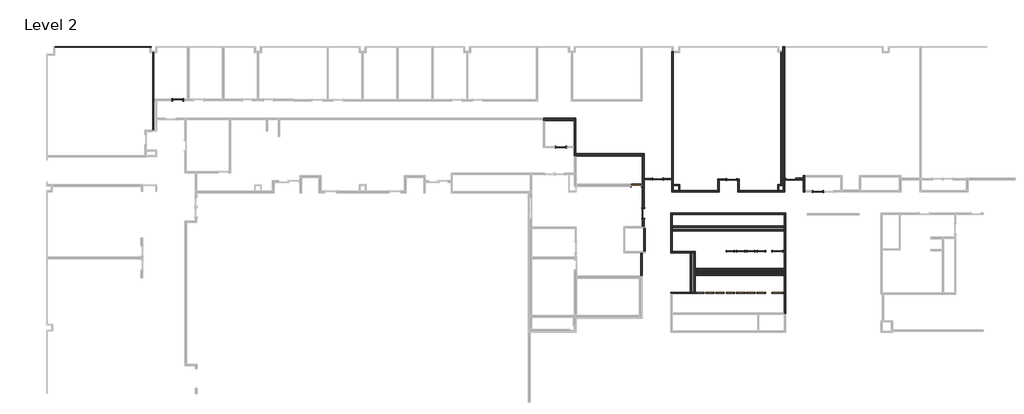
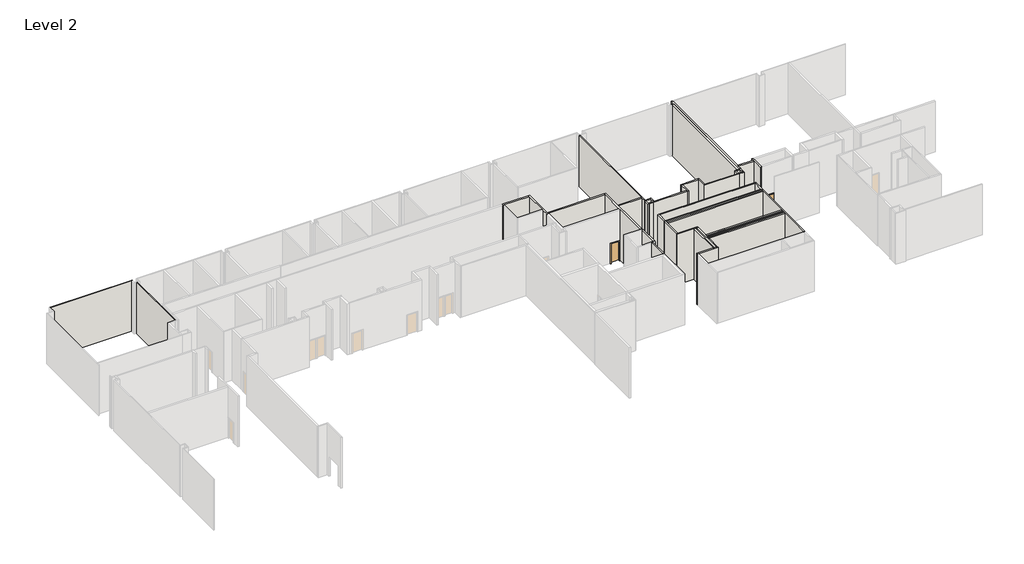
# One storey, part 7 of 9: 42 walls, 21 doors.
"""IFC4 building model written with IfcOpenShell, lengths in millimetres."""

from ifc_helpers import new_model, si_unit, frame, origin, place, context, project, spatial, polyline, outline, extrude, faceted_brep, transform, mapped, element, save
from components import door_4812912e, door_cc1532e9, door_f75d31f8, door_74220ae7, door_31ee638c, door_d84f83c7, door_3b0d1d25, door_8244bb97, door_7c9e1b45

model = new_model("IFC4")

# Units and contexts
model_context = context("Model", 3, world=origin())
ifc_project = project(units=[si_unit("LENGTHUNIT", "METRE", prefix="MILLI")], contexts=[model_context])

# Site, building, storey
site = spatial("IfcSite", under=ifc_project)
building = spatial("IfcBuilding", under=site)
storey = spatial("IfcBuildingStorey", under=building, Name="Level 2", Elevation=5486.4)

# Doors
placement = place(None, origin())
door_shape = door_4812912e(model_context)
element("IfcDoor", 1, ObjectType="Single-Flush : 30\" x 80\"", at=placement, inside=storey, context=model_context, shape_type="MappedRepresentation", body=[
    mapped(door_shape, transform((58998.1940091, 19972.9858476, 5486.4), x_axis=(1.0, 0.0, 0.0), y_axis=(0.0, 1.0, 0.0), z_axis=(0.0, 0.0, 1.0))),
])
element("IfcDoor", 2, ObjectType="Single-Flush : 30\" x 80\"", at=placement, inside=storey, context=model_context, shape_type="MappedRepresentation", body=[
    mapped(door_shape, transform((57194.7940091, 19972.9858476, 5486.4), x_axis=(-1.0, 0.0, 0.0), y_axis=(0.0, -1.0, 0.0), z_axis=(0.0, 0.0, 1.0))),
])
element("IfcDoor", 3, ObjectType="Single-Flush : 30\" x 80\"", at=placement, inside=storey, context=model_context, shape_type="MappedRepresentation", body=[
    mapped(door_shape, transform((57194.7940091, 16324.0853485, 5486.4), x_axis=(1.0, 0.0, 0.0), y_axis=(0.0, 1.0, 0.0), z_axis=(0.0, 0.0, 1.0))),
])
element("IfcDoor", 4, ObjectType="Single-Flush : 30\" x 80\"", at=placement, inside=storey, context=model_context, shape_type="MappedRepresentation", body=[
    mapped(door_shape, transform((58083.7940091, 16324.0853485, 5486.4), x_axis=(1.0, 0.0, 0.0), y_axis=(0.0, 1.0, 0.0), z_axis=(0.0, 0.0, 1.0))),
])
element("IfcDoor", 5, ObjectType="Single-Flush : 30\" x 80\"", at=placement, inside=storey, context=model_context, shape_type="MappedRepresentation", body=[
    mapped(door_shape, transform((56297.761744, 16324.0853485, 5486.4), x_axis=(1.0, 0.0, 0.0), y_axis=(0.0, 1.0, 0.0), z_axis=(0.0, 0.0, 1.0))),
])
element("IfcDoor", 6, ObjectType="Single-Flush : 30\" x 80\"", at=placement, inside=storey, context=model_context, shape_type="MappedRepresentation", body=[
    mapped(door_shape, transform((55400.0944789, 16324.0853485, 5486.4), x_axis=(1.0, 0.0, 0.0), y_axis=(0.0, 1.0, 0.0), z_axis=(0.0, 0.0, 1.0))),
])
element("IfcDoor", 7, ObjectType="Single-Flush : 30\" x 80\"", at=placement, inside=storey, context=model_context, shape_type="MappedRepresentation", body=[
    mapped(door_shape, transform((54511.0944789, 16324.0853485, 5486.4), x_axis=(1.0, 0.0, 0.0), y_axis=(0.0, 1.0, 0.0), z_axis=(0.0, 0.0, 1.0))),
])
element("IfcDoor", 8, ObjectType="Single-Flush : 30\" x 80\"", at=placement, inside=storey, context=model_context, shape_type="MappedRepresentation", body=[
    mapped(door_shape, transform((53645.842994, 16324.0853485, 5486.4), x_axis=(1.0, 0.0, 0.0), y_axis=(0.0, 1.0, 0.0), z_axis=(0.0, 0.0, 1.0))),
])
door_2_shape = door_cc1532e9(model_context)
element("IfcDoor", 9, ObjectType="Single-Flush : 30\" x 80\"", at=placement, inside=storey, context=model_context, shape_type="MappedRepresentation", body=[
    mapped(door_2_shape, transform((58083.7940091, 19972.9858476, 5486.4), x_axis=(1.0, 0.0, 0.0), y_axis=(0.0, 1.0, 0.0), z_axis=(0.0, 0.0, 1.0))),
])
element("IfcDoor", 10, ObjectType="Single-Flush : 30\" x 80\"", at=placement, inside=storey, context=model_context, shape_type="MappedRepresentation", body=[
    mapped(door_2_shape, transform((56297.761744, 19972.9858476, 5486.4), x_axis=(1.0, 0.0, 0.0), y_axis=(0.0, 1.0, 0.0), z_axis=(0.0, 0.0, 1.0))),
])
element("IfcDoor", 11, ObjectType="Single-Flush : 30\" x 80\"", at=placement, inside=storey, context=model_context, shape_type="MappedRepresentation", body=[
    mapped(door_2_shape, transform((58998.1940091, 16324.0853485, 5486.4), x_axis=(1.0, 0.0, 0.0), y_axis=(0.0, 1.0, 0.0), z_axis=(0.0, 0.0, 1.0))),
])
door_3_shape = door_f75d31f8(model_context)
element("IfcDoor", 12, ObjectType="Single-Flush : 34\" x 84\"", at=placement, inside=storey, context=model_context, shape_type="MappedRepresentation", body=[
    mapped(door_3_shape, transform((48073.8473958, 25731.5956102, 5486.4), x_axis=(1.0, 0.0, 0.0), y_axis=(0.0, 1.0, 0.0), z_axis=(0.0, 0.0, 1.0))),
])
door_4_shape = door_74220ae7(model_context)
element("IfcDoor", 13, ObjectType="Single-Flush : 34\" x 84\"", at=placement, inside=storey, context=model_context, shape_type="MappedRepresentation", body=[
    mapped(door_4_shape, transform((48683.4473958, 23282.0831102, 5486.4), x_axis=(0.0, -1.0, 0.0), y_axis=(1.0, 0.0, 0.0), z_axis=(0.0, 0.0, 1.0))),
])
door_5_shape = door_31ee638c(model_context)
element("IfcDoor", 14, ObjectType="Single-Flush : 34\" x 84\"", at=placement, inside=storey, context=model_context, shape_type="MappedRepresentation", body=[
    mapped(door_5_shape, transform((60414.0544789, 19972.9858476, 5486.4), x_axis=(1.0, 0.0, 0.0), y_axis=(0.0, 1.0, 0.0), z_axis=(0.0, 0.0, 1.0))),
])
door_6_shape = door_d84f83c7(model_context)
element("IfcDoor", 15, ObjectType="Single-Flush : 34\" x 84\"", at=placement, inside=storey, context=model_context, shape_type="MappedRepresentation", body=[
    mapped(door_6_shape, transform((60406.6724216, 16324.0853485, 5486.4), x_axis=(1.0, 0.0, 0.0), y_axis=(0.0, 1.0, 0.0), z_axis=(0.0, 0.0, 1.0))),
])
door_7_shape = door_3b0d1d25(model_context)
element("IfcDoor", 16, ObjectType="Single-Flush : 34\" x 84\"", at=placement, inside=storey, context=model_context, shape_type="MappedRepresentation", body=[
    mapped(door_7_shape, transform((56399.4379373, 26248.9908654, 5486.4), x_axis=(1.0, 0.0, 0.0), y_axis=(0.0, 1.0, 0.0), z_axis=(0.0, 0.0, 1.0))),
])
door_8_shape = door_8244bb97(model_context)
element("IfcDoor", 17, ObjectType="Single-Flush : 34\" x 84\"", at=placement, inside=storey, context=model_context, shape_type="MappedRepresentation", body=[
    mapped(door_8_shape, transform((61582.6254373, 26288.8081105, 5486.4), x_axis=(-1.0, 0.0, 0.0), y_axis=(0.0, -1.0, 0.0), z_axis=(0.0, 0.0, 1.0))),
])
door_9_shape = door_7c9e1b45(model_context)
element("IfcDoor", 18, ObjectType="Single-Flush : 34\" x 84\"", at=placement, inside=storey, context=model_context, shape_type="MappedRepresentation", body=[
    mapped(door_9_shape, transform((63944.8254373, 25210.8956105, 5486.4), x_axis=(-1.0, 0.0, 0.0), y_axis=(0.0, -1.0, 0.0), z_axis=(0.0, 0.0, 1.0))),
])
element("IfcDoor", 19, ObjectType="Single-Flush : 34\" x 84\"", at=placement, inside=storey, context=model_context, shape_type="MappedRepresentation", body=[
    mapped(door_9_shape, transform((49954.6114165, 26291.9831196, 5486.4), x_axis=(-1.0, 0.0, 0.0), y_axis=(0.0, -1.0, 0.0), z_axis=(0.0, 0.0, 1.0))),
])
element("IfcDoor", 20, ObjectType="Single-Flush : 34\" x 84\"", at=placement, inside=storey, context=model_context, shape_type="MappedRepresentation", body=[
    mapped(door_7_shape, transform((41482.6080086, 29087.5706053, 5486.4), x_axis=(1.0, 0.0, 0.0), y_axis=(0.0, 1.0, 0.0), z_axis=(0.0, 0.0, 1.0))),
])
element("IfcDoor", 21, ObjectType="Single-Flush : 34\" x 84\"", at=placement, inside=storey, context=model_context, shape_type="MappedRepresentation", body=[
    mapped(door_8_shape, transform((7991.8004373, 33215.0706105, 5486.4), x_axis=(1.0, 0.0, 0.0), y_axis=(0.0, 1.0, 0.0), z_axis=(0.0, 0.0, 1.0))),
])

# Walls
element("IfcWall", 22, ObjectType="N3A/B", at=placement, inside=storey, context=model_context, shape_type="SweptSolid", body=[
    extrude(outline(polyline([(60719.0347232, 25809.3831105), (60719.0347232, 37366.3831105), (60874.6097232, 37366.3831105), (60874.6097232, 25809.3831105), (60719.0347232, 25809.3831105)])), frame((0.0, 0.0, 5486.4), z_axis=(0.0, 0.0, 1.0), x_axis=(1.0, 0.0, 0.0)), (0.0, 0.0, 1.0), 5486.4),
])
element("IfcWall", 23, ObjectType="N2A/B", at=placement, inside=storey, context=model_context, shape_type="Brep", body=[
    faceted_brep([(60525.3504373, 25272.8081105, 5486.4), (60417.4004373, 25272.8081105, 5486.4), (57070.9504373, 25272.8081105, 5486.4), (56947.1254373, 25272.8081105, 5486.4), (56947.1254373, 25272.8081105, 10972.8), (57070.9504373, 25272.8081105, 10972.8), (60417.4004373, 25272.8081105, 10972.8), (60525.3504373, 25272.8081105, 10972.8), (60525.3504373, 25148.9831105, 5486.4), (60525.3504373, 25148.9831105, 10972.8), (56947.1254373, 25148.9831105, 10972.8), (56947.1254373, 25148.9831105, 5486.4), (60525.3504373, 25264.8706105, 5486.4), (60525.3504373, 25156.9206105, 5486.4), (60525.3504373, 25156.9206105, 10972.8), (60525.3504373, 25264.8706105, 10972.8)], [[[0, 1, 2, 3, 4, 5, 6, 7]], [[8, 9, 10, 11]], [[3, 2, 1, 0, 12, 13, 8, 11]], [[7, 6, 5, 4, 10, 9, 14, 15]], [[4, 3, 11, 10]], [[0, 7, 15, 14, 9, 8, 13, 12]]]),
])
element("IfcWall", 24, ObjectType="N2A/B", at=placement, inside=storey, context=model_context, shape_type="Brep", body=[
    faceted_brep([(57070.9504373, 25272.8081105, 5486.4), (57070.9504373, 26310.9033654, 5486.4), (57070.9504373, 26310.9033654, 10972.8), (57070.9504373, 25272.8081105, 10972.8), (56947.1254373, 25272.8081105, 5486.4), (56947.1254373, 25272.8081105, 10972.8), (56947.1254373, 26187.0783654, 10972.8), (56947.1254373, 26310.9033654, 10972.8), (56947.1254373, 26310.9033654, 5486.4), (56947.1254373, 26187.0783654, 5486.4)], [[[0, 1, 2, 3]], [[4, 5, 6, 7, 8, 9]], [[1, 0, 4, 9, 8]], [[3, 2, 7, 6, 5]], [[2, 1, 8, 7]], [[0, 3, 5, 4]]]),
])
element("IfcWall", 25, ObjectType="N2A/B", at=placement, inside=storey, context=model_context, shape_type="Brep", body=[
    faceted_brep([(56947.1254373, 26310.9033654, 5486.4), (56831.2379373, 26310.9033654, 5486.4), (56831.2379373, 26310.9033654, 7620.0), (55967.6379373, 26310.9033654, 7620.0), (55967.6379373, 26310.9033654, 5486.4), (55196.1129373, 26310.9033654, 5486.4), (55196.1129373, 26310.9033654, 10972.8), (56947.1254373, 26310.9033654, 10972.8), (56831.2379373, 26187.0783654, 7620.0), (56831.2379373, 26187.0783654, 5486.4), (56947.1254373, 26187.0783654, 5486.4), (56947.1254373, 26187.0783654, 10972.8), (55319.9379373, 26187.0783654, 10972.8), (55196.1129373, 26187.0783654, 10972.8), (55196.1129373, 26187.0783654, 5486.4), (55319.9379373, 26187.0783654, 5486.4), (55967.6379373, 26187.0783654, 5486.4), (55967.6379373, 26187.0783654, 7620.0)], [[[0, 1, 2, 3, 4, 5, 6, 7]], [[8, 9, 10, 11, 12, 13, 14, 15, 16, 17]], [[10, 9, 1, 0]], [[16, 15, 14, 5, 4]], [[7, 6, 13, 12, 11]], [[6, 5, 14, 13]], [[0, 7, 11, 10]], [[2, 1, 9, 8]], [[3, 2, 8, 17]], [[4, 3, 17, 16]]]),
])
element("IfcWall", 26, ObjectType="N2A/B", at=placement, inside=storey, context=model_context, shape_type="Brep", body=[
    faceted_brep([(55196.1129373, 26187.0783654, 5486.4), (55196.1129373, 25272.8081105, 5486.4), (55196.1129373, 25148.9831105, 5486.4), (55196.1129373, 25148.9831105, 10972.8), (55196.1129373, 25272.8081105, 10972.8), (55196.1129373, 26187.0783654, 10972.8), (55319.9379373, 26187.0783654, 5486.4), (55319.9379373, 26187.0783654, 10972.8), (55319.9379373, 25148.9831105, 10972.8), (55319.9379373, 25148.9831105, 5486.4)], [[[0, 1, 2, 3, 4, 5]], [[6, 7, 8, 9]], [[2, 1, 0, 6, 9]], [[5, 4, 3, 8, 7]], [[3, 2, 9, 8]], [[0, 5, 7, 6]]]),
])
element("IfcWall", 27, ObjectType="N2A/B", at=placement, inside=storey, context=model_context, shape_type="Brep", body=[
    faceted_brep([(55196.1129373, 25272.8081105, 5486.4), (51883.0004373, 25272.8081105, 5486.4), (51775.0504373, 25272.8081105, 5486.4), (51775.0504373, 25272.8081105, 10972.8), (51883.0004373, 25272.8081105, 10972.8), (55196.1129373, 25272.8081105, 10972.8), (55196.1129373, 25148.9831105, 5486.4), (55196.1129373, 25148.9831105, 10972.8), (51775.0504373, 25148.9831105, 10972.8), (51775.0504373, 25148.9831105, 5486.4), (51775.0504373, 25156.9206105, 5486.4), (51775.0504373, 25264.8706105, 5486.4), (51775.0504373, 25264.8706105, 10972.8), (51775.0504373, 25156.9206105, 10972.8)], [[[0, 1, 2, 3, 4, 5]], [[6, 7, 8, 9]], [[2, 1, 0, 6, 9, 10, 11]], [[5, 4, 3, 12, 13, 8, 7]], [[3, 2, 11, 10, 9, 8, 13, 12]], [[0, 5, 7, 6]]]),
])
element("IfcWall", 28, ObjectType="N2A/B", at=placement, inside=storey, context=model_context, shape_type="Brep", body=[
    faceted_brep([(51287.6879373, 25809.3831105, 5486.4), (51287.6879373, 37366.3831105, 5486.4), (51287.6879373, 37420.3581105, 5486.4), (51287.6879373, 37420.3581105, 10972.8), (51287.6879373, 37366.3831105, 10972.8), (51287.6879373, 25809.3831105, 10972.8), (51163.8629373, 25809.3831105, 5486.4), (51163.8629373, 25809.3831105, 10972.8), (51163.8629373, 26230.0706196, 10972.8), (51163.8629373, 26353.8956196, 10972.8), (51163.8629373, 37420.3581105, 10972.8), (51163.8629373, 37420.3581105, 5486.4), (51163.8629373, 26353.8956196, 5486.4), (51163.8629373, 26230.0706196, 5486.4), (51171.8004373, 25809.3831105, 5486.4), (51171.8004373, 37420.3581105, 5486.4), (51279.7504373, 37420.3581105, 5486.4), (51171.8004373, 37420.3581105, 10972.8), (51279.7504373, 37420.3581105, 10972.8), (51171.8004373, 25809.3831105, 10972.8)], [[[0, 1, 2, 3, 4, 5]], [[6, 7, 8, 9, 10, 11, 12, 13]], [[2, 1, 0, 14, 6, 13, 12, 11, 15, 16]], [[3, 2, 16, 15, 11, 10, 17, 18]], [[5, 4, 3, 18, 17, 10, 9, 8, 7, 19]], [[0, 5, 19, 7, 6, 14]]]),
])
element("IfcWall", 29, ObjectType="N3A/B", at=placement, inside=storey, context=model_context, shape_type="Brep", body=[
    faceted_brep([(61050.8129373, 25809.3831105, 5486.4), (61050.8129373, 26211.0206105, 5486.4), (61050.8129373, 26366.5956105, 5486.4), (61050.8129373, 37810.8831105, 5486.4), (61050.8129373, 37868.0331105, 5486.4), (61050.8129373, 37868.0331105, 10972.8), (61050.8129373, 37810.8831105, 10972.8), (61050.8129373, 26366.5956105, 10972.8), (61050.8129373, 26211.0206105, 10972.8), (61050.8129373, 25809.3831105, 10972.8), (60895.2379373, 25809.3831105, 5486.4), (60895.2379373, 25809.3831105, 10972.8), (60895.2379373, 37379.9086106, 10972.8), (60895.2379373, 37503.7336106, 10972.8), (60895.2379373, 37868.0331105, 10972.8), (60895.2379373, 37868.0331105, 5486.4), (60895.2379373, 37503.7336106, 5486.4), (60895.2379373, 37379.9086106, 5486.4), (61027.0004373, 25809.3831105, 5486.4), (60919.0504373, 25809.3831105, 5486.4), (60919.0504373, 25809.3831105, 10972.8), (61027.0004373, 25809.3831105, 10972.8)], [[[0, 1, 2, 3, 4, 5, 6, 7, 8, 9]], [[10, 11, 12, 13, 14, 15, 16, 17]], [[4, 3, 2, 1, 0, 18, 19, 10, 17, 16, 15]], [[9, 8, 7, 6, 5, 14, 13, 12, 11, 20, 21]], [[5, 4, 15, 14]], [[0, 9, 21, 20, 11, 10, 19, 18]]]),
])
element("IfcWall", 30, ObjectType="N3A/B", at=placement, inside=storey, context=model_context, shape_type="SweptSolid", body=[
    extrude(outline(polyline([(5486.4, 61050.8129373), (5486.4, 61150.8254373), (7620.0, 61150.8254373), (7620.0, 62014.4254373), (5486.4, 62014.4254373), (5486.4, 62647.8379373), (10972.8, 62647.8379373), (10972.8, 61050.8129373), (5486.4, 61050.8129373)])), frame((0.0, 26211.0206105, 0.0), z_axis=(0.0, 1.0, 0.0), x_axis=(0.0, 0.0, 1.0)), (0.0, 0.0, 1.0), 155.575),
])
element("IfcWall", 31, ObjectType="N3A/B", at=placement, inside=storey, context=model_context, shape_type="Brep", body=[
    faceted_brep([(62803.4129373, 25148.9831105, 5486.4), (62803.4129373, 25272.8081105, 5486.4), (62803.4129373, 26453.9081341, 5486.4), (62803.4129373, 26609.4831341, 5486.4), (62803.4129373, 26609.4831341, 10972.8), (62803.4129373, 26453.9081341, 10972.8), (62803.4129373, 25272.8081105, 10972.8), (62803.4129373, 25148.9831105, 10972.8), (62647.8379373, 25148.9831105, 5486.4), (62647.8379373, 25148.9831105, 10972.8), (62647.8379373, 26211.0206105, 10972.8), (62647.8379373, 26366.5956105, 10972.8), (62647.8379373, 26609.4831341, 10972.8), (62647.8379373, 26609.4831341, 5486.4), (62647.8379373, 26366.5956105, 5486.4), (62647.8379373, 26211.0206105, 5486.4)], [[[0, 1, 2, 3, 4, 5, 6, 7]], [[8, 9, 10, 11, 12, 13, 14, 15]], [[3, 2, 1, 0, 8, 15, 14, 13]], [[7, 6, 5, 4, 12, 11, 10, 9]], [[4, 3, 13, 12]], [[0, 7, 9, 8]]]),
])
element("IfcWall", 32, ObjectType="N2A/B", at=placement, inside=storey, context=model_context, shape_type="Brep", body=[
    faceted_brep([(42763.7205086, 28296.9956102, 5486.4), (42763.7205086, 31600.583105, 5486.4), (42763.7205086, 31600.583105, 10972.8), (42763.7205086, 28296.9956102, 10972.8), (42639.8955086, 28296.9956102, 5486.4), (42639.8955086, 28296.9956102, 10972.8), (42639.8955086, 29025.6581053, 10972.8), (42639.8955086, 29149.4831053, 10972.8), (42639.8955086, 31416.433105, 10972.8), (42639.8955086, 31600.583105, 10972.8), (42639.8955086, 31600.583105, 5486.4), (42639.8955086, 31416.433105, 5486.4), (42639.8955086, 29149.4831053, 5486.4), (42639.8955086, 29025.6581053, 5486.4)], [[[0, 1, 2, 3]], [[4, 5, 6, 7, 8, 9, 10, 11, 12, 13]], [[1, 0, 4, 13, 12, 11, 10]], [[3, 2, 9, 8, 7, 6, 5]], [[2, 1, 10, 9]], [[0, 3, 5, 4]]]),
])
element("IfcWall", 33, ObjectType="N2A/B", at=placement, inside=storey, context=model_context, shape_type="Brep", body=[
    faceted_brep([(53224.4565091, 19941.9830752, 5486.4), (51221.0315091, 19941.9830752, 5486.4), (51097.2065091, 19941.9830752, 5486.4), (51097.2065091, 19941.9830752, 10972.8), (51221.0315091, 19941.9830752, 10972.8), (53224.4565091, 19941.9830752, 10972.8), (53224.4565091, 19818.1580752, 5486.4), (53224.4565091, 19818.1580752, 10972.8), (53100.6315091, 19818.1580752, 10972.8), (52913.3065091, 19818.1580752, 10972.8), (52789.4815091, 19818.1580752, 10972.8), (51097.2065091, 19818.1580752, 10972.8), (51097.2065091, 19818.1580752, 5486.4), (52789.4815091, 19818.1580752, 5486.4), (52913.3065091, 19818.1580752, 5486.4), (53100.6315091, 19818.1580752, 5486.4)], [[[0, 1, 2, 3, 4, 5]], [[6, 7, 8, 9, 10, 11, 12, 13, 14, 15]], [[2, 1, 0, 6, 15, 14, 13, 12]], [[5, 4, 3, 11, 10, 9, 8, 7]], [[3, 2, 12, 11]], [[0, 5, 7, 6]]]),
])
element("IfcWall", 34, ObjectType="N2A/B", at=placement, inside=storey, context=model_context, shape_type="Brep", body=[
    faceted_brep([(51221.0315091, 19941.9830752, 5486.4), (51221.0315091, 21740.4936102, 5486.4), (51221.0315091, 21864.3186102, 5486.4), (51221.0315091, 22035.8956102, 5486.4), (51221.0315091, 22097.8081102, 5486.4), (51221.0315091, 22097.8081102, 10972.8), (51221.0315091, 22035.8956102, 10972.8), (51221.0315091, 21864.3186102, 10972.8), (51221.0315091, 21740.4936102, 10972.8), (51221.0315091, 19941.9830752, 10972.8), (51097.2065091, 19941.9830752, 5486.4), (51097.2065091, 19941.9830752, 10972.8), (51097.2065091, 22097.8081102, 10972.8), (51097.2065091, 22097.8081102, 5486.4)], [[[0, 1, 2, 3, 4, 5, 6, 7, 8, 9]], [[10, 11, 12, 13]], [[4, 3, 2, 1, 0, 10, 13]], [[5, 4, 13, 12]], [[9, 8, 7, 6, 5, 12, 11]], [[0, 9, 11, 10]]]),
])
element("IfcWall", 35, ObjectType="N2A/B", at=placement, inside=storey, context=model_context, shape_type="Brep", body=[
    faceted_brep([(61003.2065091, 22035.8956102, 5486.4), (61003.2065091, 21864.3186102, 5486.4), (61003.2065091, 21740.4936102, 5486.4), (61003.2065091, 20001.5608476, 5486.4), (61003.2065091, 19944.4108476, 5486.4), (61003.2065091, 18457.6706082, 5486.4), (61003.2065091, 18333.8456082, 5486.4), (61003.2065091, 18308.3417135, 5486.4), (61003.2065091, 18184.5167135, 5486.4), (61003.2065091, 18133.82061, 5486.4), (61003.2065091, 18009.99561, 5486.4), (61003.2065091, 17981.42061, 5486.4), (61003.2065091, 17857.59561, 5486.4), (61003.2065091, 14568.2956098, 5486.4), (61003.2065091, 14506.3831098, 5486.4), (61003.2065091, 14506.3831098, 10972.8), (61003.2065091, 14568.2956098, 10972.8), (61003.2065091, 17857.59561, 10972.8), (61003.2065091, 17981.42061, 10972.8), (61003.2065091, 18009.99561, 10972.8), (61003.2065091, 18133.82061, 10972.8), (61003.2065091, 18184.5167135, 10972.8), (61003.2065091, 18308.3417135, 10972.8), (61003.2065091, 18333.8456082, 10972.8), (61003.2065091, 18457.6706082, 10972.8), (61003.2065091, 21740.4936102, 10972.8), (61003.2065091, 21864.3186102, 10972.8), (61003.2065091, 22035.8956102, 10972.8), (61127.0315091, 22035.8956102, 5486.4), (61127.0315091, 22035.8956102, 10972.8), (61127.0315091, 14506.3831098, 10972.8), (61127.0315091, 14506.3831098, 5486.4)], [[[0, 1, 2, 3, 4, 5, 6, 7, 8, 9, 10, 11, 12, 13, 14, 15, 16, 17, 18, 19, 20, 21, 22, 23, 24, 25, 26, 27]], [[28, 29, 30, 31]], [[14, 13, 12, 11, 10, 9, 8, 7, 6, 5, 4, 3, 2, 1, 0, 28, 31]], [[15, 14, 31, 30]], [[27, 26, 25, 24, 23, 22, 21, 20, 19, 18, 17, 16, 15, 30, 29]], [[0, 27, 29, 28]]]),
])
element("IfcWall", 36, ObjectType="N2A/B", at=placement, inside=storey, context=model_context, shape_type="Brep", body=[
    faceted_brep([(53224.4565091, 16389.1581483, 10972.8), (53224.4565091, 16389.1581483, 5486.4), (53100.6315091, 16389.1581483, 5486.4), (52913.3065091, 16389.1581483, 5486.4), (52789.4815091, 16389.1581483, 5486.4), (51101.95039, 16389.1581483, 5486.4), (51101.95039, 16389.1581483, 10972.8), (52789.4815091, 16389.1581483, 10972.8), (52913.3065091, 16389.1581483, 10972.8), (53100.6315091, 16389.1581483, 10972.8), (53224.4565091, 16265.3331483, 5486.4), (53224.4565091, 16265.3331483, 10972.8), (51225.77539, 16265.3331483, 10972.8), (51101.95039, 16265.3331483, 10972.8), (51101.95039, 16265.3331483, 5486.4), (51225.77539, 16265.3331483, 5486.4), (53224.4565091, 16352.6603485, 5486.4), (53224.4565091, 16295.5103485, 5486.4)], [[[0, 1, 2, 3, 4, 5, 6, 7, 8, 9]], [[10, 11, 12, 13, 14, 15]], [[5, 4, 3, 2, 1, 16, 17, 10, 15, 14]], [[0, 9, 8, 7, 6, 13, 12, 11]], [[6, 5, 14, 13]], [[0, 11, 10, 17, 16, 1]]]),
])
element("IfcWall", 37, ObjectType="N2A/B", at=placement, inside=storey, context=model_context, shape_type="SweptSolid", body=[
    extrude(outline(polyline([(5486.4, 48785.0473958), (5486.4, 49522.8114165), (7620.0, 49522.8114165), (7620.0, 50386.4114165), (5486.4, 50386.4114165), (5486.4, 51163.8629373), (10972.8, 51163.8629373), (10972.8, 48785.0473958), (5486.4, 48785.0473958)])), frame((0.0, 26230.0706196, 0.0), z_axis=(0.0, 1.0, 0.0), x_axis=(0.0, 0.0, 1.0)), (0.0, 0.0, 1.0), 123.825),
])
element("IfcWall", 38, ObjectType="F1A", at=placement, inside=storey, context=model_context, shape_type="Brep", body=[
    faceted_brep([(-2752.3995627, 37810.8831105, 5486.4), (5547.0504373, 37810.8831105, 5486.4), (5655.0004373, 37810.8831105, 5486.4), (5655.0004373, 37810.8831105, 10972.8), (5547.0504373, 37810.8831105, 10972.8), (-2752.3995627, 37810.8831105, 10972.8), (-2752.3995627, 37868.0331105, 5486.4), (-2752.3995627, 37868.0331105, 10972.8), (5655.0004373, 37868.0331105, 10972.8), (5655.0004373, 37868.0331105, 5486.4)], [[[0, 1, 2, 3, 4, 5]], [[6, 7, 8, 9]], [[2, 1, 0, 6, 9]], [[5, 4, 3, 8, 7]], [[3, 2, 9, 8]], [[0, 5, 7, 6]]]),
])
element("IfcWall", 39, ObjectType="F1C", at=placement, inside=storey, context=model_context, shape_type="Brep", body=[
    faceted_brep([(51883.0004373, 25272.8081105, 5486.4), (51883.0004373, 25809.3831105, 5486.4), (51883.0004373, 25809.3831105, 10972.8), (51883.0004373, 25272.8081105, 10972.8), (51775.0504373, 25272.8081105, 5486.4), (51775.0504373, 25272.8081105, 10972.8), (51775.0504373, 25701.4331105, 10972.8), (51775.0504373, 25809.3831105, 10972.8), (51775.0504373, 25809.3831105, 5486.4), (51775.0504373, 25701.4331105, 5486.4)], [[[0, 1, 2, 3]], [[4, 5, 6, 7, 8, 9]], [[1, 0, 4, 9, 8]], [[3, 2, 7, 6, 5]], [[2, 1, 8, 7]], [[0, 3, 5, 4]]]),
])
element("IfcWall", 40, ObjectType="F1C", at=placement, inside=storey, context=model_context, shape_type="Brep", body=[
    faceted_brep([(51775.0504373, 25809.3831105, 5486.4), (51287.6879373, 25809.3831105, 5486.4), (51171.8004373, 25809.3831105, 5486.4), (51171.8004373, 25809.3831105, 10972.8), (51287.6879373, 25809.3831105, 10972.8), (51775.0504373, 25809.3831105, 10972.8), (51775.0504373, 25701.4331105, 5486.4), (51775.0504373, 25701.4331105, 10972.8), (51279.7504373, 25701.4331105, 10972.8), (51171.8004373, 25701.4331105, 10972.8), (51171.8004373, 25701.4331105, 5486.4), (51279.7504373, 25701.4331105, 5486.4)], [[[0, 1, 2, 3, 4, 5]], [[6, 7, 8, 9, 10, 11]], [[2, 1, 0, 6, 11, 10]], [[5, 4, 3, 9, 8, 7]], [[3, 2, 10, 9]], [[0, 5, 7, 6]]]),
])
element("IfcWall", 41, ObjectType="F1C", at=placement, inside=storey, context=model_context, shape_type="Brep", body=[
    faceted_brep([(51171.8004373, 25701.4331105, 5486.4), (51171.8004373, 25156.9206105, 5486.4), (51171.8004373, 25156.9206105, 10972.8), (51171.8004373, 25701.4331105, 10972.8), (51279.7504373, 25701.4331105, 5486.4), (51279.7504373, 25701.4331105, 10972.8), (51279.7504373, 25264.8706105, 10972.8), (51279.7504373, 25156.9206105, 10972.8), (51279.7504373, 25156.9206105, 5486.4), (51279.7504373, 25264.8706105, 5486.4)], [[[0, 1, 2, 3]], [[4, 5, 6, 7, 8, 9]], [[1, 0, 4, 9, 8]], [[3, 2, 7, 6, 5]], [[2, 1, 8, 7]], [[0, 3, 5, 4]]]),
])
element("IfcWall", 42, ObjectType="F1C", at=placement, inside=storey, context=model_context, shape_type="SweptSolid", body=[
    extrude(outline(polyline([(51775.0504373, 25156.9206105), (51279.7504373, 25156.9206105), (51279.7504373, 25264.8706105), (51775.0504373, 25264.8706105), (51775.0504373, 25156.9206105)])), frame((0.0, 0.0, 5486.4), z_axis=(0.0, 0.0, 1.0), x_axis=(1.0, 0.0, 0.0)), (0.0, 0.0, 1.0), 5486.4),
])
element("IfcWall", 43, ObjectType="F1C", at=placement, inside=storey, context=model_context, shape_type="Brep", body=[
    faceted_brep([(60417.4004373, 25809.3831105, 5486.4), (60417.4004373, 25272.8081105, 5486.4), (60417.4004373, 25272.8081105, 10972.8), (60417.4004373, 25809.3831105, 10972.8), (60525.3504373, 25809.3831105, 5486.4), (60525.3504373, 25809.3831105, 10972.8), (60525.3504373, 25701.4331105, 10972.8), (60525.3504373, 25272.8081105, 10972.8), (60525.3504373, 25272.8081105, 5486.4), (60525.3504373, 25701.4331105, 5486.4)], [[[0, 1, 2, 3]], [[4, 5, 6, 7, 8, 9]], [[1, 0, 4, 9, 8]], [[3, 2, 7, 6, 5]], [[0, 3, 5, 4]], [[2, 1, 8, 7]]]),
])
element("IfcWall", 44, ObjectType="F1C", at=placement, inside=storey, context=model_context, shape_type="Brep", body=[
    faceted_brep([(60525.3504373, 25156.9206105, 5486.4), (61027.0004373, 25156.9206105, 5486.4), (61027.0004373, 25156.9206105, 10972.8), (60525.3504373, 25156.9206105, 10972.8), (60525.3504373, 25264.8706105, 5486.4), (60525.3504373, 25264.8706105, 10972.8), (60919.0504373, 25264.8706105, 10972.8), (61027.0004373, 25264.8706105, 10972.8), (61027.0004373, 25264.8706105, 5486.4), (60919.0504373, 25264.8706105, 5486.4)], [[[0, 1, 2, 3]], [[4, 5, 6, 7, 8, 9]], [[1, 0, 4, 9, 8]], [[3, 2, 7, 6, 5]], [[2, 1, 8, 7]], [[0, 3, 5, 4]]]),
])
element("IfcWall", 45, ObjectType="F1C", at=placement, inside=storey, context=model_context, shape_type="Brep", body=[
    faceted_brep([(61027.0004373, 25264.8706105, 5486.4), (61027.0004373, 25809.3831105, 5486.4), (61027.0004373, 25809.3831105, 10972.8), (61027.0004373, 25264.8706105, 10972.8), (60919.0504373, 25264.8706105, 5486.4), (60919.0504373, 25264.8706105, 10972.8), (60919.0504373, 25701.4331105, 10972.8), (60919.0504373, 25809.3831105, 10972.8), (60919.0504373, 25809.3831105, 5486.4), (60919.0504373, 25701.4331105, 5486.4)], [[[0, 1, 2, 3]], [[4, 5, 6, 7, 8, 9]], [[1, 0, 4, 9, 8]], [[3, 2, 7, 6, 5]], [[2, 1, 8, 7]], [[0, 3, 5, 4]]]),
])
element("IfcWall", 46, ObjectType="F1C", at=placement, inside=storey, context=model_context, shape_type="Brep", body=[
    faceted_brep([(60919.0504373, 25809.3831105, 5486.4), (60895.2379373, 25809.3831105, 5486.4), (60874.6097232, 25809.3831105, 5486.4), (60719.0347232, 25809.3831105, 5486.4), (60525.3504373, 25809.3831105, 5486.4), (60525.3504373, 25809.3831105, 10972.8), (60719.0347232, 25809.3831105, 10972.8), (60874.6097232, 25809.3831105, 10972.8), (60895.2379373, 25809.3831105, 10972.8), (60919.0504373, 25809.3831105, 10972.8), (60919.0504373, 25701.4331105, 5486.4), (60919.0504373, 25701.4331105, 10972.8), (60525.3504373, 25701.4331105, 10972.8), (60525.3504373, 25701.4331105, 5486.4)], [[[0, 1, 2, 3, 4, 5, 6, 7, 8, 9]], [[10, 11, 12, 13]], [[4, 3, 2, 1, 0, 10, 13]], [[9, 8, 7, 6, 5, 12, 11]], [[5, 4, 13, 12]], [[0, 9, 11, 10]]]),
])
element("IfcWall", 47, ObjectType="F2A", at=placement, inside=storey, context=model_context, shape_type="Brep", body=[
    faceted_brep([(5904.2565091, 30573.4706105, 5486.4), (5904.2565091, 33137.2831105, 5486.4), (5904.2565091, 33292.8581105, 5486.4), (5904.2565091, 37360.0331105, 5486.4), (5904.2565091, 37360.0331105, 10972.8), (5904.2565091, 33292.8581105, 10972.8), (5904.2565091, 33137.2831105, 10972.8), (5904.2565091, 30573.4706105, 10972.8), (5796.3065091, 30573.4706105, 5486.4), (5796.3065091, 30573.4706105, 10972.8), (5796.3065091, 37360.0331105, 10972.8), (5796.3065091, 37360.0331105, 5486.4)], [[[0, 1, 2, 3, 4, 5, 6, 7]], [[8, 9, 10, 11]], [[3, 2, 1, 0, 8, 11]], [[7, 6, 5, 4, 10, 9]], [[4, 3, 11, 10]], [[0, 7, 9, 8]]]),
])
element("IfcWall", 48, ObjectType="F4A", at=placement, inside=storey, context=model_context, shape_type="Brep", body=[
    faceted_brep([(51221.0315091, 22097.8081102, 5486.4), (51221.0315091, 22159.7206102, 5486.4), (51221.0315091, 23194.7706101, 5486.4), (51221.0315091, 23318.5956101, 5486.4), (51221.0315091, 23318.5956101, 10972.8), (51221.0315091, 23194.7706101, 10972.8), (51221.0315091, 22159.7206102, 10972.8), (51221.0315091, 22097.8081102, 10972.8), (51097.2065091, 22097.8081102, 5486.4), (51097.2065091, 22097.8081102, 10972.8), (51097.2065091, 23318.5956101, 10972.8), (51097.2065091, 23318.5956101, 5486.4)], [[[0, 1, 2, 3, 4, 5, 6, 7]], [[8, 9, 10, 11]], [[3, 2, 1, 0, 8, 11]], [[7, 6, 5, 4, 10, 9]], [[0, 7, 9, 8]], [[4, 3, 11, 10]]]),
])
element("IfcWall", 49, ObjectType="F4A", at=placement, inside=storey, context=model_context, shape_type="Brep", body=[
    faceted_brep([(51221.0315091, 23194.7706101, 5486.4), (61003.2065091, 23194.7706101, 5486.4), (61127.0315091, 23194.7706101, 5486.4), (61127.0315091, 23194.7706101, 10972.8), (61003.2065091, 23194.7706101, 10972.8), (51221.0315091, 23194.7706101, 10972.8), (51221.0315091, 23318.5956101, 5486.4), (51221.0315091, 23318.5956101, 10972.8), (61127.0315091, 23318.5956101, 10972.8), (61127.0315091, 23318.5956101, 5486.4)], [[[0, 1, 2, 3, 4, 5]], [[6, 7, 8, 9]], [[2, 1, 0, 6, 9]], [[5, 4, 3, 8, 7]], [[3, 2, 9, 8]], [[0, 5, 7, 6]]]),
])
element("IfcWall", 50, ObjectType="F4A", at=placement, inside=storey, context=model_context, shape_type="Brep", body=[
    faceted_brep([(61003.2065091, 23194.7706101, 5486.4), (61003.2065091, 22159.7206102, 5486.4), (61003.2065091, 22035.8956102, 5486.4), (61003.2065091, 22035.8956102, 10972.8), (61003.2065091, 22159.7206102, 10972.8), (61003.2065091, 23194.7706101, 10972.8), (61127.0315091, 23194.7706101, 5486.4), (61127.0315091, 23194.7706101, 10972.8), (61127.0315091, 22035.8956102, 10972.8), (61127.0315091, 22035.8956102, 5486.4)], [[[0, 1, 2, 3, 4, 5]], [[6, 7, 8, 9]], [[2, 1, 0, 6, 9]], [[5, 4, 3, 8, 7]], [[3, 2, 9, 8]], [[0, 5, 7, 6]]]),
])
element("IfcWall", 51, ObjectType="F4A", at=placement, inside=storey, context=model_context, shape_type="Brep", body=[
    faceted_brep([(61003.2065091, 22159.7206102, 5486.4), (51221.0315091, 22159.7206102, 5486.4), (51221.0315091, 22159.7206102, 10972.8), (61003.2065091, 22159.7206102, 10972.8), (61003.2065091, 22035.8956102, 5486.4), (61003.2065091, 22035.8956102, 10972.8), (51221.0315091, 22035.8956102, 10972.8), (51221.0315091, 22035.8956102, 5486.4), (51221.0315091, 22097.8081102, 5486.4), (51221.0315091, 22097.8081102, 10972.8)], [[[0, 1, 2, 3]], [[4, 5, 6, 7]], [[1, 0, 4, 7, 8]], [[3, 2, 9, 6, 5]], [[0, 3, 5, 4]], [[2, 1, 8, 7, 6, 9]]]),
])
element("IfcWall", 52, ObjectType="F4A", at=placement, inside=storey, context=model_context, shape_type="SweptSolid", body=[
    extrude(outline(polyline([(52789.4815091, 16389.1581483), (52789.4815091, 19818.1580752), (52913.3065091, 19818.1580752), (52913.3065091, 16389.1581483), (52789.4815091, 16389.1581483)])), frame((0.0, 0.0, 5486.4), z_axis=(0.0, 0.0, 1.0), x_axis=(1.0, 0.0, 0.0)), (0.0, 0.0, 1.0), 5486.4),
])
element("IfcWall", 53, ObjectType="F4A", at=placement, inside=storey, context=model_context, shape_type="Brep", body=[
    faceted_brep([(53224.4565091, 16389.1581483, 10972.8), (53224.4565091, 16389.1581483, 5486.4), (53224.4565091, 17857.59561, 5486.4), (53224.4565091, 17981.42061, 5486.4), (53224.4565091, 18009.99561, 5486.4), (53224.4565091, 18133.82061, 5486.4), (53224.4565091, 18184.5167135, 5486.4), (53224.4565091, 18308.3417135, 5486.4), (53224.4565091, 18333.8456082, 5486.4), (53224.4565091, 18457.6706082, 5486.4), (53224.4565091, 19818.1580752, 5486.4), (53224.4565091, 19818.1580752, 10972.8), (53224.4565091, 18457.6706082, 10972.8), (53224.4565091, 18333.8456082, 10972.8), (53224.4565091, 18308.3417135, 10972.8), (53224.4565091, 18184.5167135, 10972.8), (53224.4565091, 18133.82061, 10972.8), (53224.4565091, 18009.99561, 10972.8), (53224.4565091, 17981.42061, 10972.8), (53224.4565091, 17857.59561, 10972.8), (53100.6315091, 16389.1581483, 5486.4), (53100.6315091, 16389.1581483, 10972.8), (53100.6315091, 19818.1580752, 10972.8), (53100.6315091, 19818.1580752, 5486.4)], [[[0, 1, 2, 3, 4, 5, 6, 7, 8, 9, 10, 11, 12, 13, 14, 15, 16, 17, 18, 19]], [[20, 21, 22, 23]], [[10, 9, 8, 7, 6, 5, 4, 3, 2, 1, 20, 23]], [[0, 19, 18, 17, 16, 15, 14, 13, 12, 11, 22, 21]], [[11, 10, 23, 22]], [[0, 21, 20, 1]]]),
])
element("IfcWall", 54, ObjectType="F4A", at=placement, inside=storey, context=model_context, shape_type="SweptSolid", body=[
    extrude(outline(polyline([(61003.2065091, 21740.4936102), (51221.0315091, 21740.4936102), (51221.0315091, 21864.3186102), (61003.2065091, 21864.3186102), (61003.2065091, 21740.4936102)])), frame((0.0, 0.0, 5486.4), z_axis=(0.0, 0.0, 1.0), x_axis=(1.0, 0.0, 0.0)), (0.0, 0.0, 1.0), 5486.4),
])
element("IfcWall", 55, ObjectType="F4A", at=placement, inside=storey, context=model_context, shape_type="Brep", body=[
    faceted_brep([(53224.4565091, 18333.8456082, 5486.4), (61003.2065091, 18333.8456082, 5486.4), (61003.2065091, 18333.8456082, 10972.8), (53224.4565091, 18333.8456082, 10972.8), (53224.4565091, 18457.6706082, 5486.4), (53224.4565091, 18457.6706082, 10972.8), (61003.2065091, 18457.6706082, 10972.8), (61003.2065091, 18457.6706082, 5486.4), (59496.6690091, 18457.6706082, 5486.4), (59439.5190091, 18457.6706082, 5486.4), (58556.8690091, 18457.6706082, 5486.4), (58499.7190091, 18457.6706082, 5486.4), (57667.8690091, 18457.6706082, 5486.4), (57610.7190091, 18457.6706082, 5486.4), (56778.8690091, 18457.6706082, 5486.4), (56721.7190091, 18457.6706082, 5486.4), (55873.8044789, 18457.6706082, 5486.4), (55816.6544789, 18457.6706082, 5486.4), (54983.5344789, 18457.6706082, 5486.4), (54926.3844789, 18457.6706082, 5486.4), (54095.8044789, 18457.6706082, 5486.4), (54038.6544789, 18457.6706082, 5486.4)], [[[0, 1, 2, 3]], [[4, 5, 6, 7, 8, 9, 10, 11, 12, 13, 14, 15, 16, 17, 18, 19, 20, 21]], [[1, 0, 4, 21, 20, 19, 18, 17, 16, 15, 14, 13, 12, 11, 10, 9, 8, 7]], [[3, 2, 6, 5]], [[2, 1, 7, 6]], [[0, 3, 5, 4]]]),
])
element("IfcWall", 56, ObjectType="F4A", at=placement, inside=storey, context=model_context, shape_type="Brep", body=[
    faceted_brep([(53224.4565091, 17857.59561, 5486.4), (56721.7190091, 17857.59561, 5486.4), (56778.8690091, 17857.59561, 5486.4), (57610.7190091, 17857.59561, 5486.4), (57667.8690091, 17857.59561, 5486.4), (58499.7190091, 17857.59561, 5486.4), (58556.8690091, 17857.59561, 5486.4), (61003.2065091, 17857.59561, 5486.4), (61003.2065091, 17857.59561, 10972.8), (53224.4565091, 17857.59561, 10972.8), (53224.4565091, 17981.42061, 5486.4), (53224.4565091, 17981.42061, 10972.8), (61003.2065091, 17981.42061, 10972.8), (61003.2065091, 17981.42061, 5486.4)], [[[0, 1, 2, 3, 4, 5, 6, 7, 8, 9]], [[10, 11, 12, 13]], [[7, 6, 5, 4, 3, 2, 1, 0, 10, 13]], [[9, 8, 12, 11]], [[8, 7, 13, 12]], [[0, 9, 11, 10]]]),
])
element("IfcWall", 57, ObjectType="F4A", at=placement, inside=storey, context=model_context, shape_type="SweptSolid", body=[
    extrude(outline(polyline([(48835.0004277, 22000.9706102), (48835.0004277, 19941.9830752), (48711.1754277, 19941.9830752), (48711.1754277, 22000.9706102), (48835.0004277, 22000.9706102)])), frame((0.0, 0.0, 5486.4), z_axis=(0.0, 0.0, 1.0), x_axis=(1.0, 0.0, 0.0)), (0.0, 0.0, 1.0), 5486.4),
])
element("IfcWall", 58, ObjectType="N1A", at=placement, inside=storey, context=model_context, shape_type="SweptSolid", body=[
    extrude(outline(polyline([(61003.2065091, 18184.5167135), (53224.4565091, 18184.5167135), (53224.4565091, 18308.3417135), (61003.2065091, 18308.3417135), (61003.2065091, 18184.5167135)])), frame((0.0, 0.0, 5486.4), z_axis=(0.0, 0.0, 1.0), x_axis=(1.0, 0.0, 0.0)), (0.0, 0.0, 1.0), 5486.4),
])
element("IfcWall", 59, ObjectType="N1A", at=placement, inside=storey, context=model_context, shape_type="Brep", body=[
    faceted_brep([(61003.2065091, 18133.82061, 5486.4), (53224.4565091, 18133.82061, 5486.4), (53224.4565091, 18133.82061, 10972.8), (61003.2065091, 18133.82061, 10972.8), (61003.2065091, 18009.99561, 5486.4), (61003.2065091, 18009.99561, 10972.8), (53224.4565091, 18009.99561, 10972.8), (53224.4565091, 18009.99561, 5486.4), (54038.6544789, 18009.99561, 5486.4), (54095.8044789, 18009.99561, 5486.4), (54926.3844789, 18009.99561, 5486.4), (54983.5344789, 18009.99561, 5486.4), (55816.6544789, 18009.99561, 5486.4), (55873.8044789, 18009.99561, 5486.4)], [[[0, 1, 2, 3]], [[4, 5, 6, 7, 8, 9, 10, 11, 12, 13]], [[1, 0, 4, 13, 12, 11, 10, 9, 8, 7]], [[3, 2, 6, 5]], [[0, 3, 5, 4]], [[2, 1, 7, 6]]]),
])
element("IfcWall", 60, ObjectType="N1A", at=placement, inside=storey, context=model_context, shape_type="Brep", body=[
    faceted_brep([(48588.9565091, 17823.7094972, 5486.4), (48588.9565091, 19818.1580752, 5486.4), (48588.9565091, 19818.1580752, 10972.8), (48588.9565091, 17823.7094972, 10972.8), (48465.1315091, 17823.7094972, 5486.4), (48465.1315091, 17823.7094972, 10972.8), (48465.1315091, 19818.1580752, 10972.8), (48465.1315091, 19818.1580752, 5486.4), (48584.1940091, 17823.7094972, 5486.4), (48527.0440091, 17823.7094972, 5486.4), (48527.0440091, 17823.7094972, 10972.8), (48584.1940091, 17823.7094972, 10972.8)], [[[0, 1, 2, 3]], [[4, 5, 6, 7]], [[1, 0, 8, 9, 4, 7]], [[3, 2, 6, 5, 10, 11]], [[0, 3, 11, 10, 5, 4, 9, 8]], [[2, 1, 7, 6]]]),
])
element("IfcWall", 61, ObjectType="N2C", at=placement, inside=storey, context=model_context, shape_type="Brep", body=[
    faceted_brep([(42639.8955086, 31600.583105, 5486.4), (39933.2080086, 31600.5831052, 5486.4), (39933.2080086, 31600.5831052, 10972.8), (42639.8955086, 31600.583105, 10972.8), (42639.8955086, 31416.433105, 5486.4), (42639.8955086, 31416.433105, 10972.8), (40058.6205086, 31416.4331052, 10972.8), (39934.7955086, 31416.4331052, 10972.8), (39933.2080086, 31416.4331052, 10972.8), (39933.2080086, 31416.4331052, 5486.4), (39934.7955086, 31416.4331052, 5486.4), (40058.6205086, 31416.4331052, 5486.4), (39933.2080086, 31476.7581078, 5486.4), (39933.2080086, 31476.7581078, 10972.8)], [[[0, 1, 2, 3]], [[4, 5, 6, 7, 8, 9, 10, 11]], [[1, 0, 4, 11, 10, 9, 12]], [[2, 1, 12, 9, 8, 13]], [[3, 2, 13, 8, 7, 6, 5]], [[0, 3, 5, 4]]]),
])
element("IfcWall", 62, ObjectType="N5C", at=placement, inside=storey, context=model_context, shape_type="Brep", body=[
    faceted_brep([(48785.0473958, 22124.7956102, 5486.4), (48785.0473958, 22850.2831102, 5486.4), (48785.0473958, 22850.2831102, 7620.0), (48785.0473958, 23713.8831102, 7620.0), (48785.0473958, 23713.8831102, 5486.4), (48785.0473958, 28500.1956102, 5486.4), (48785.0473958, 28500.1956102, 10972.8), (48785.0473958, 22124.7956102, 10972.8), (48581.8473958, 22850.2831102, 7620.0), (48581.8473958, 22850.2831102, 5486.4), (48581.8473958, 22124.7956102, 5486.4), (48581.8473958, 22124.7956102, 10972.8), (48581.8473958, 25629.9956102, 10972.8), (48581.8473958, 25833.1956102, 10972.8), (48581.8473958, 28296.9956102, 10972.8), (48581.8473958, 28500.1956102, 10972.8), (48581.8473958, 28500.1956102, 5486.4), (48581.8473958, 28296.9956102, 5486.4), (48581.8473958, 25833.1956102, 5486.4), (48581.8473958, 25629.9956102, 5486.4), (48581.8473958, 23713.8831102, 5486.4), (48581.8473958, 23713.8831102, 7620.0)], [[[0, 1, 2, 3, 4, 5, 6, 7]], [[8, 9, 10, 11, 12, 13, 14, 15, 16, 17, 18, 19, 20, 21]], [[10, 9, 1, 0]], [[20, 19, 18, 17, 16, 5, 4]], [[7, 6, 15, 14, 13, 12, 11]], [[6, 5, 16, 15]], [[0, 7, 11, 10]], [[2, 1, 9, 8]], [[3, 2, 8, 21]], [[4, 3, 21, 20]]]),
])
element("IfcWall", 63, ObjectType="N5C", at=placement, inside=storey, context=model_context, shape_type="Brep", body=[
    faceted_brep([(48581.8473958, 28500.1956102, 5486.4), (42763.7205086, 28500.1956102, 5486.4), (42763.7205086, 28500.1956102, 10972.8), (48581.8473958, 28500.1956102, 10972.8), (48581.8473958, 28296.9956102, 5486.4), (48581.8473958, 28296.9956102, 10972.8), (42838.3330089, 28296.9956102, 10972.8), (42763.7205086, 28296.9956102, 10972.8), (42763.7205086, 28296.9956102, 5486.4), (42838.3330089, 28296.9956102, 5486.4)], [[[0, 1, 2, 3]], [[4, 5, 6, 7, 8, 9]], [[1, 0, 4, 9, 8]], [[3, 2, 7, 6, 5]], [[0, 3, 5, 4]], [[2, 1, 8, 7]]]),
])

save(model, "model.ifc")
